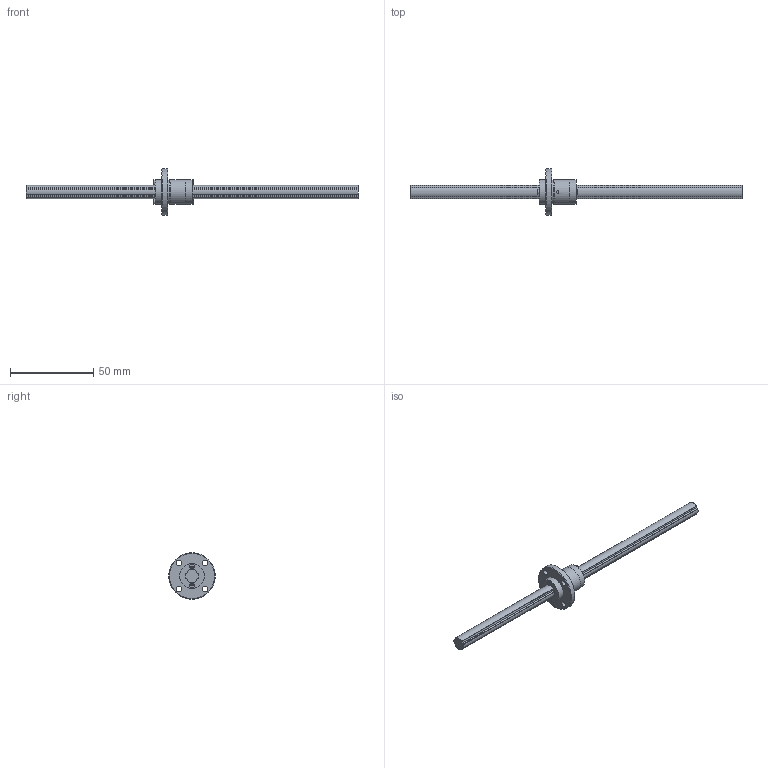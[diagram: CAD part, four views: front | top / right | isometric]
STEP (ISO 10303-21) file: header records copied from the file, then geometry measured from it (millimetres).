
FILE_DESCRIPTION(/* description */ ('STEP AP214'),/* implementation_level */ '2;1');
FILE_NAME(/* name */ 'LF8X+200L(00)',/* time_stamp */ '2024-09-05T14:43:52+02:00',/* author */ ('License CC BY-ND 4.0'),/* organization */ ('CADENAS'),/* preprocessor_version */ 'ST-DEVELOPER v19.3',/* originating_system */ 'PARTsolutions',/* authorisation */ ' ');
FILE_SCHEMA (('AUTOMOTIVE_DESIGN {1 0 10303 214 3 1 1}'));
Length unit declared in the file: millimetre
Products named in the file (3): LF8X+200L(00); 1LT8X 200Shaft; 1LF8X Cylindar
Assembly tree (2 placements, depth 2):
  LF8X+200L(00)
    1LT8X 200Shaft
    1LF8X Cylindar
Bounding box: 200 x 28 x 28 mm (x, y, z)
Volume: 13874.9 mm3; surface area: 8253.3 mm2
Topology: 2 solids, 2 shells, 121 faces, 323 edges, 215 vertices
Faces by surface type: plane 70, cylinder 47, cone 4
Full cylindrical faces by diameter (mm): 1.5 x2, 3 x4, 3.4 x4, 14.7 x1, 14.8 x2, 15 x1, 28 x1
Entity records: 3753 total; most frequent: CARTESIAN_POINT 668, DIRECTION 632, ORIENTED_EDGE 592, EDGE_CURVE 296, AXIS2_PLACEMENT_3D 216, VERTEX_POINT 208, LINE 200, VECTOR 200
